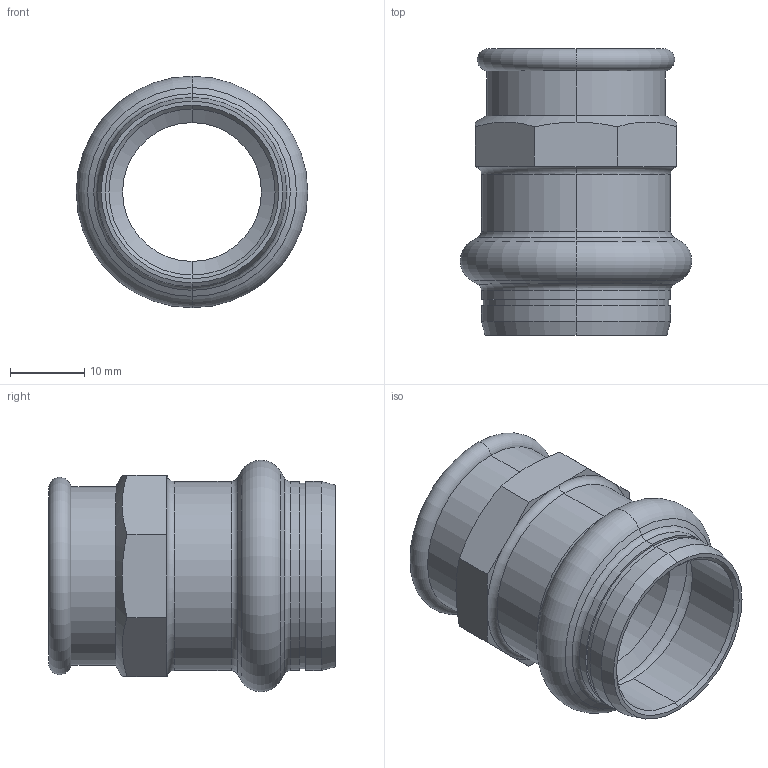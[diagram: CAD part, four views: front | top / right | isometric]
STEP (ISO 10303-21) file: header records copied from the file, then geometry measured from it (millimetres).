
FILE_DESCRIPTION (( 'STEP AP203' ), '1' );
FILE_NAME ('SP4270G Ø22 1-2.STEP', '2017-04-26T08:27:50', ( '' ), ( '' ), 'SwSTEP 2.0', 'SolidWorks 2016', '' );
FILE_SCHEMA (( 'CONFIG_CONTROL_DESIGN' ));
Length unit declared in the file: millimetre
Products named in the file (1): SP4270G Ø22 1-2
Bounding box: 31.1 x 38.5 x 31.1 mm (x, y, z)
Volume: 6956.7 mm3; surface area: 6813.4 mm2
Topology: 1 solids, 1 shells, 65 faces, 148 edges, 88 vertices
Faces by surface type: cone 24, cylinder 16, plane 13, torus 12
Entity records: 2035 total; most frequent: CARTESIAN_POINT 510, DIRECTION 316, ORIENTED_EDGE 296, EDGE_CURVE 148, AXIS2_PLACEMENT_3D 138, VERTEX_POINT 88, CIRCLE 72, EDGE_LOOP 70
